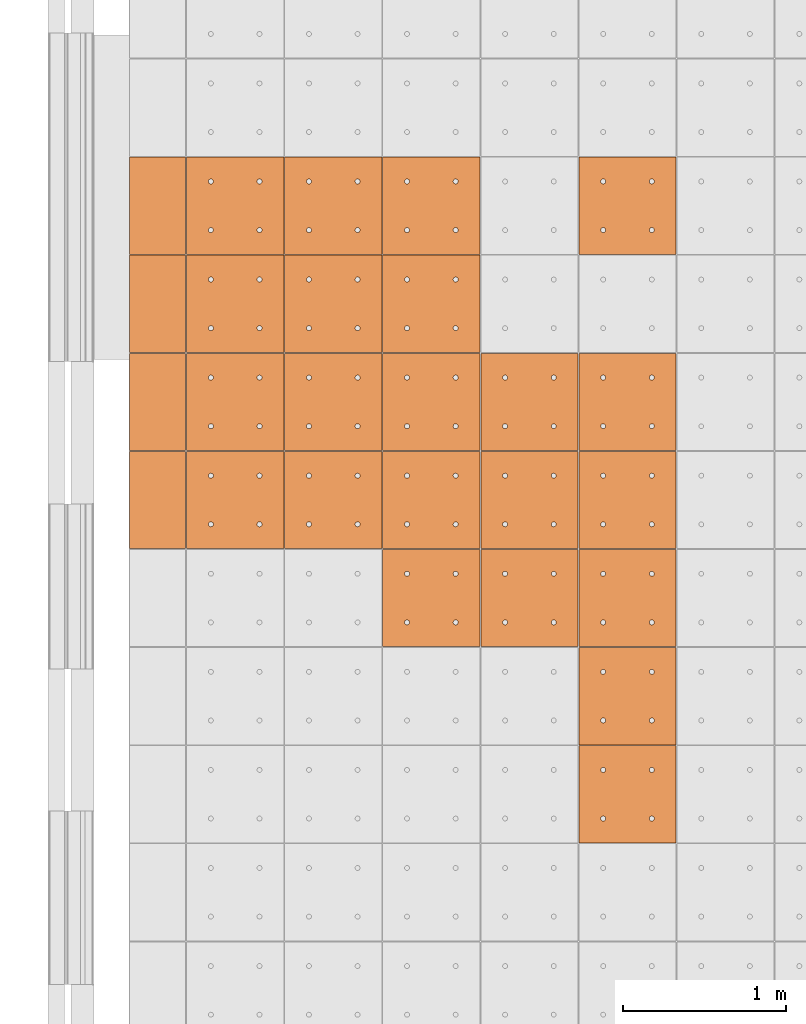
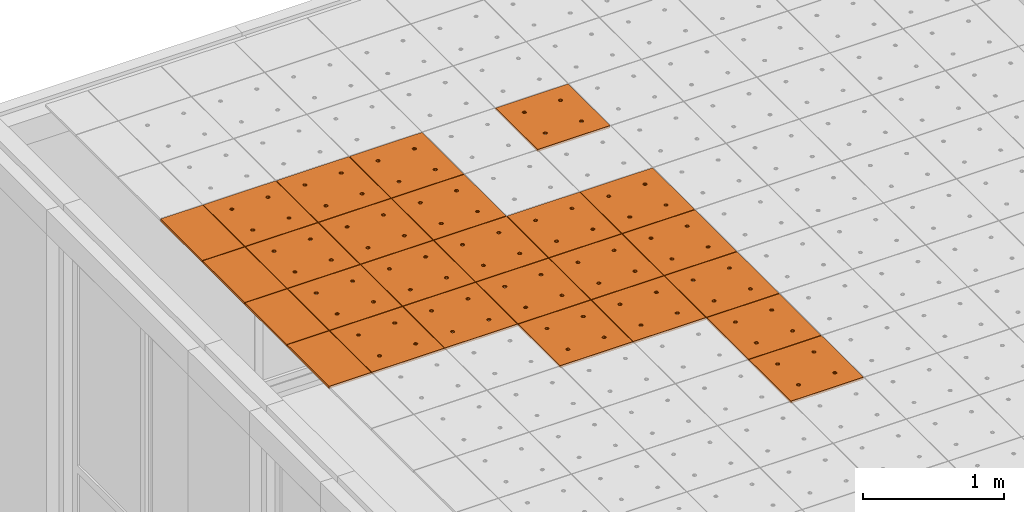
# One storey, part 246 of 338: 26 proxies, 1 element without a shape of its own.
"""IFC2X3 building model written with IfcOpenShell, lengths in millimetres."""

from ifc_helpers import new_model, entity, si_unit, converted_unit, derived_unit, money_unit, direction, frame, origin_with_axes, place, context, subcontext, project, spatial, faceted_brep, source, transform, mapped, material, type_object, type_shapes, element, aggregate, save


model = new_model("IFC2X3")

# Units and contexts
model_context = context("Model", 3, precision=0.01, world=origin_with_axes(), true_north=direction((0.0, 1.0)))
plan_context = context("Plan", 3, precision=0.01, world=origin_with_axes(), true_north=direction((0.0, 1.0)))
body_context = subcontext(model_context, "Body", "Model", "MODEL_VIEW")
ifc_project = project(units=[si_unit("LENGTHUNIT", "METRE", prefix="MILLI"), si_unit("AREAUNIT", "SQUARE_METRE"), si_unit("VOLUMEUNIT", "CUBIC_METRE"), converted_unit("PLANEANGLEUNIT", "DEGREE", entity("IfcPlaneAngleMeasure", 0.0174532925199), si_unit("PLANEANGLEUNIT", "RADIAN"), dimensions=[0, 0, 0, 0, 0, 0, 0]), money_unit("EUR"), converted_unit("TIMEUNIT", "Year", entity("IfcTimeMeasure", 31556926.0), si_unit("TIMEUNIT", "SECOND"), dimensions=[0, 0, 1, 0, 0, 0, 0]), si_unit("MASSUNIT", "GRAM", prefix="KILO"), si_unit("THERMODYNAMICTEMPERATUREUNIT", "DEGREE_CELSIUS"), si_unit("LUMINOUSINTENSITYUNIT", "LUMEN"), si_unit("ENERGYUNIT", "JOULE", prefix="MEGA"), derived_unit("THERMALCONDUCTANCEUNIT", [(si_unit("POWERUNIT", "WATT"), 1), (si_unit("LENGTHUNIT", "METRE"), -1), (si_unit("THERMODYNAMICTEMPERATUREUNIT", "KELVIN"), -1)]), derived_unit("SPECIFICHEATCAPACITYUNIT", [(si_unit("ENERGYUNIT", "JOULE"), 1), (si_unit("MASSUNIT", "GRAM", prefix="KILO"), -1), (si_unit("THERMODYNAMICTEMPERATUREUNIT", "KELVIN"), -1)]), derived_unit("MASSDENSITYUNIT", [(si_unit("MASSUNIT", "GRAM", prefix="KILO"), 1), (si_unit("VOLUMEUNIT", "CUBIC_METRE"), -1)])], contexts=[model_context, plan_context])

# Site, building, storey
site_placement = place(None, origin_with_axes())
site = spatial("IfcSite", under=ifc_project, at=site_placement, Name="Fortuinstraat Woensdrecht", CompositionType="ELEMENT")
building_placement = place(site_placement, origin_with_axes())
building = spatial("IfcBuilding", under=site, at=building_placement, Name="IKC Fortuna", CompositionType="ELEMENT")
storey_placement = place(building_placement, origin_with_axes())
storey = spatial("IfcBuildingStorey", under=building, at=storey_placement, Name="00 begane grond", CompositionType="ELEMENT", Elevation=0.0)

# Covering, proxies
covering_type = type_object("IfcCoveringType", Name="Curtain Wall Type", PredefinedType="CEILING")
covering_placement = place(storey_placement, frame((15059.4416165, 34009.703821, 3210.0), z_axis=(0.0, 0.0, 1.0), x_axis=(1.0, 0.0, 0.0)))
covering = element("IfcCovering", 1, at=covering_placement, inside=storey, type_object=covering_type, Name="45_Plafondafwerking_P01", PredefinedType="CEILING")
ifc_material = material(Name="Gipsplaat")
building_element_proxy_type_1 = type_object("IfcBuildingElementProxyType", Name="Distinct Panel 600 x 600 x 20", PredefinedType="NOTDEFINED")
shared_shape_1 = source(origin_with_axes(), body_context, "Body", "Brep", [
    faceted_brep([(2.49999999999, 2.49999999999, -10.0), (300.0, 2.49999999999, -10.0), (300.0, 2.49999999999, 10.0), (2.49999999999, 2.49999999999, 10.0), (2.49999999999, 300.0, -10.0), (2.49999999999, 597.5, -10.0), (300.0, 597.5, -10.0), (597.5, 597.5, -10.0), (597.5, 300.0, -10.0), (597.5, 2.49999999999, -10.0), (166.25, 450.06232995, -10.0), (165.79423259, 452.64711538, -10.0), (164.896546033, 455.11348892, -10.0), (163.58421608, 457.38651108, -10.0), (161.897117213, 459.39711721, -10.0), (159.886511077, 461.08421608, -10.0), (157.613488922, 462.39654603, -10.0), (155.147115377, 463.29423259, -10.0), (152.562329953, 463.75, -10.0), (149.937670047, 463.75, -10.0), (147.352884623, 463.29423259, -10.0), (144.886511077, 462.39654603, -10.0), (142.613488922, 461.08421608, -10.0), (140.602882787, 459.39711721, -10.0), (138.91578392, 457.38651108, -10.0), (137.603453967, 455.11348892, -10.0), (136.705767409, 452.64711538, -10.0), (136.25, 450.06232995, -10.0), (136.25, 448.75, -10.0), (136.25, 447.43767005, -10.0), (136.705767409, 444.85288462, -10.0), (137.603453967, 442.38651108, -10.0), (138.91578392, 440.11348892, -10.0), (140.602882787, 438.10288279, -10.0), (142.613488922, 436.41578392, -10.0), (144.886511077, 435.10345397, -10.0), (147.352884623, 434.20576741, -10.0), (149.937670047, 433.75, -10.0), (152.562329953, 433.75, -10.0), (155.147115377, 434.20576741, -10.0), (157.613488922, 435.10345397, -10.0), (159.886511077, 436.41578392, -10.0), (161.897117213, 438.10288279, -10.0), (163.58421608, 440.11348892, -10.0), (164.896546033, 442.38651108, -10.0), (165.79423259, 444.85288462, -10.0), (166.25, 447.43767005, -10.0), (463.75, 450.06232995, -10.0), (463.29423259, 452.64711538, -10.0), (462.396546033, 455.11348892, -10.0), (461.08421608, 457.38651108, -10.0), (459.397117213, 459.39711721, -10.0), (457.386511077, 461.08421608, -10.0), (455.113488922, 462.39654603, -10.0), (452.647115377, 463.29423259, -10.0), (450.062329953, 463.75, -10.0), (447.437670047, 463.75, -10.0), (444.852884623, 463.29423259, -10.0), (442.386511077, 462.39654603, -10.0), (440.113488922, 461.08421608, -10.0), (438.102882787, 459.39711721, -10.0), (436.41578392, 457.38651108, -10.0), (435.103453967, 455.11348892, -10.0), (434.205767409, 452.64711538, -10.0), (433.75, 450.06232995, -10.0), (433.75, 448.75, -10.0), (433.75, 447.43767005, -10.0), (434.205767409, 444.85288462, -10.0), (435.103453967, 442.38651108, -10.0), (436.41578392, 440.11348892, -10.0), (438.102882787, 438.10288279, -10.0), (440.113488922, 436.41578392, -10.0), (442.386511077, 435.10345397, -10.0), (444.852884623, 434.20576741, -10.0), (447.437670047, 433.75, -10.0), (450.062329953, 433.75, -10.0), (452.647115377, 434.20576741, -10.0), (455.113488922, 435.10345397, -10.0), (457.386511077, 436.41578392, -10.0), (459.397117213, 438.10288279, -10.0), (461.08421608, 440.11348892, -10.0), (462.396546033, 442.38651108, -10.0), (463.29423259, 444.85288462, -10.0), (463.75, 447.43767005, -10.0), (463.75, 152.56232995, -10.0), (463.29423259, 155.14711538, -10.0), (462.396546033, 157.61348892, -10.0), (461.08421608, 159.88651108, -10.0), (459.397117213, 161.89711721, -10.0), (457.386511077, 163.58421608, -10.0), (455.113488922, 164.89654603, -10.0), (452.647115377, 165.79423259, -10.0), (450.062329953, 166.25, -10.0), (447.437670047, 166.25, -10.0), (444.852884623, 165.79423259, -10.0), (442.386511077, 164.89654603, -10.0), (440.113488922, 163.58421608, -10.0), (438.102882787, 161.89711721, -10.0), (436.41578392, 159.88651108, -10.0), (435.103453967, 157.61348892, -10.0), (434.205767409, 155.14711538, -10.0), (433.75, 152.56232995, -10.0), (433.75, 151.25, -10.0), (433.75, 149.93767005, -10.0), (434.205767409, 147.35288462, -10.0), (435.103453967, 144.88651108, -10.0), (436.41578392, 142.61348892, -10.0), (438.102882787, 140.60288279, -10.0), (440.113488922, 138.91578392, -10.0), (442.386511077, 137.60345397, -10.0), (444.852884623, 136.70576741, -10.0), (447.437670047, 136.25, -10.0), (450.062329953, 136.25, -10.0), (452.647115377, 136.70576741, -10.0), (455.113488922, 137.60345397, -10.0), (457.386511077, 138.91578392, -10.0), (459.397117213, 140.60288279, -10.0), (461.08421608, 142.61348892, -10.0), (462.396546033, 144.88651108, -10.0), (463.29423259, 147.35288462, -10.0), (463.75, 149.93767005, -10.0), (166.25, 152.56232995, -10.0), (165.79423259, 155.14711538, -10.0), (164.896546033, 157.61348892, -10.0), (163.58421608, 159.88651108, -10.0), (161.897117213, 161.89711721, -10.0), (159.886511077, 163.58421608, -10.0), (157.613488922, 164.89654603, -10.0), (155.147115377, 165.79423259, -10.0), (152.562329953, 166.25, -10.0), (149.937670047, 166.25, -10.0), (147.352884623, 165.79423259, -10.0), (144.886511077, 164.89654603, -10.0), (142.613488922, 163.58421608, -10.0), (140.602882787, 161.89711721, -10.0), (138.91578392, 159.88651108, -10.0), (137.603453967, 157.61348892, -10.0), (136.705767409, 155.14711538, -10.0), (136.25, 152.56232995, -10.0), (136.25, 151.25, -10.0), (136.25, 149.93767005, -10.0), (136.705767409, 147.35288462, -10.0), (137.603453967, 144.88651108, -10.0), (138.91578392, 142.61348892, -10.0), (140.602882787, 140.60288279, -10.0), (142.613488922, 138.91578392, -10.0), (144.886511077, 137.60345397, -10.0), (147.352884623, 136.70576741, -10.0), (149.937670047, 136.25, -10.0), (152.562329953, 136.25, -10.0), (155.147115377, 136.70576741, -10.0), (157.613488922, 137.60345397, -10.0), (159.886511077, 138.91578392, -10.0), (161.897117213, 140.60288279, -10.0), (163.58421608, 142.61348892, -10.0), (164.896546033, 144.88651108, -10.0), (165.79423259, 147.35288462, -10.0), (166.25, 149.93767005, -10.0), (597.5, 2.49999999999, 10.0), (597.5, 300.0, 10.0), (597.5, 597.5, 10.0), (300.0, 597.5, 10.0), (2.49999999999, 597.5, 10.0), (2.49999999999, 300.0, 10.0), (166.25, 450.06232995, 10.0), (166.25, 447.43767005, 10.0), (165.79423259, 444.85288462, 10.0), (164.896546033, 442.38651108, 10.0), (163.58421608, 440.11348892, 10.0), (161.897117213, 438.10288279, 10.0), (159.886511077, 436.41578392, 10.0), (157.613488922, 435.10345397, 10.0), (155.147115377, 434.20576741, 10.0), (152.562329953, 433.75, 10.0), (149.937670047, 433.75, 10.0), (147.352884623, 434.20576741, 10.0), (144.886511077, 435.10345397, 10.0), (142.613488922, 436.41578392, 10.0), (140.602882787, 438.10288279, 10.0), (138.91578392, 440.11348892, 10.0), (137.603453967, 442.38651108, 10.0), (136.705767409, 444.85288462, 10.0), (136.25, 447.43767005, 10.0), (136.25, 448.75, 10.0), (136.25, 450.06232995, 10.0), (136.705767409, 452.64711538, 10.0), (137.603453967, 455.11348892, 10.0), (138.91578392, 457.38651108, 10.0), (140.602882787, 459.39711721, 10.0), (142.613488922, 461.08421608, 10.0), (144.886511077, 462.39654603, 10.0), (147.352884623, 463.29423259, 10.0), (149.937670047, 463.75, 10.0), (152.562329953, 463.75, 10.0), (155.147115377, 463.29423259, 10.0), (157.613488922, 462.39654603, 10.0), (159.886511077, 461.08421608, 10.0), (161.897117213, 459.39711721, 10.0), (163.58421608, 457.38651108, 10.0), (164.896546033, 455.11348892, 10.0), (165.79423259, 452.64711538, 10.0), (463.75, 450.06232995, 10.0), (463.75, 447.43767005, 10.0), (463.29423259, 444.85288462, 10.0), (462.396546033, 442.38651108, 10.0), (461.08421608, 440.11348892, 10.0), (459.397117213, 438.10288279, 10.0), (457.386511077, 436.41578392, 10.0), (455.113488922, 435.10345397, 10.0), (452.647115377, 434.20576741, 10.0), (450.062329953, 433.75, 10.0), (447.437670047, 433.75, 10.0), (444.852884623, 434.20576741, 10.0), (442.386511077, 435.10345397, 10.0), (440.113488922, 436.41578392, 10.0), (438.102882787, 438.10288279, 10.0), (436.41578392, 440.11348892, 10.0), (435.103453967, 442.38651108, 10.0), (434.205767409, 444.85288462, 10.0), (433.75, 447.43767005, 10.0), (433.75, 448.75, 10.0), (433.75, 450.06232995, 10.0), (434.205767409, 452.64711538, 10.0), (435.103453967, 455.11348892, 10.0), (436.41578392, 457.38651108, 10.0), (438.102882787, 459.39711721, 10.0), (440.113488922, 461.08421608, 10.0), (442.386511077, 462.39654603, 10.0), (444.852884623, 463.29423259, 10.0), (447.437670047, 463.75, 10.0), (450.062329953, 463.75, 10.0), (452.647115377, 463.29423259, 10.0), (455.113488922, 462.39654603, 10.0), (457.386511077, 461.08421608, 10.0), (459.397117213, 459.39711721, 10.0), (461.08421608, 457.38651108, 10.0), (462.396546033, 455.11348892, 10.0), (463.29423259, 452.64711538, 10.0), (463.75, 152.56232995, 10.0), (463.75, 149.93767005, 10.0), (463.29423259, 147.35288462, 10.0), (462.396546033, 144.88651108, 10.0), (461.08421608, 142.61348892, 10.0), (459.397117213, 140.60288279, 10.0), (457.386511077, 138.91578392, 10.0), (455.113488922, 137.60345397, 10.0), (452.647115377, 136.70576741, 10.0), (450.062329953, 136.25, 10.0), (447.437670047, 136.25, 10.0), (444.852884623, 136.70576741, 10.0), (442.386511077, 137.60345397, 10.0), (440.113488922, 138.91578392, 10.0), (438.102882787, 140.60288279, 10.0), (436.41578392, 142.61348892, 10.0), (435.103453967, 144.88651108, 10.0), (434.205767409, 147.35288462, 10.0), (433.75, 149.93767005, 10.0), (433.75, 151.25, 10.0), (433.75, 152.56232995, 10.0), (434.205767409, 155.14711538, 10.0), (435.103453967, 157.61348892, 10.0), (436.41578392, 159.88651108, 10.0), (438.102882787, 161.89711721, 10.0), (440.113488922, 163.58421608, 10.0), (442.386511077, 164.89654603, 10.0), (444.852884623, 165.79423259, 10.0), (447.437670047, 166.25, 10.0), (450.062329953, 166.25, 10.0), (452.647115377, 165.79423259, 10.0), (455.113488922, 164.89654603, 10.0), (457.386511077, 163.58421608, 10.0), (459.397117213, 161.89711721, 10.0), (461.08421608, 159.88651108, 10.0), (462.396546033, 157.61348892, 10.0), (463.29423259, 155.14711538, 10.0), (166.25, 152.56232995, 10.0), (166.25, 149.93767005, 10.0), (165.79423259, 147.35288462, 10.0), (164.896546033, 144.88651108, 10.0), (163.58421608, 142.61348892, 10.0), (161.897117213, 140.60288279, 10.0), (159.886511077, 138.91578392, 10.0), (157.613488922, 137.60345397, 10.0), (155.147115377, 136.70576741, 10.0), (152.562329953, 136.25, 10.0), (149.937670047, 136.25, 10.0), (147.352884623, 136.70576741, 10.0), (144.886511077, 137.60345397, 10.0), (142.613488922, 138.91578392, 10.0), (140.602882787, 140.60288279, 10.0), (138.91578392, 142.61348892, 10.0), (137.603453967, 144.88651108, 10.0), (136.705767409, 147.35288462, 10.0), (136.25, 149.93767005, 10.0), (136.25, 151.25, 10.0), (136.25, 152.56232995, 10.0), (136.705767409, 155.14711538, 10.0), (137.603453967, 157.61348892, 10.0), (138.91578392, 159.88651108, 10.0), (140.602882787, 161.89711721, 10.0), (142.613488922, 163.58421608, 10.0), (144.886511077, 164.89654603, 10.0), (147.352884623, 165.79423259, 10.0), (149.937670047, 166.25, 10.0), (152.562329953, 166.25, 10.0), (155.147115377, 165.79423259, 10.0), (157.613488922, 164.89654603, 10.0), (159.886511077, 163.58421608, 10.0), (161.897117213, 161.89711721, 10.0), (163.58421608, 159.88651108, 10.0), (164.896546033, 157.61348892, 10.0), (165.79423259, 155.14711538, 10.0)], [[[0, 1, 2, 3]], [[0, 4, 5, 6, 7, 8, 9, 1], [10, 11, 12, 13, 14, 15, 16, 17, 18, 19, 20, 21, 22, 23, 24, 25, 26, 27, 28, 29, 30, 31, 32, 33, 34, 35, 36, 37, 38, 39, 40, 41, 42, 43, 44, 45, 46], [47, 48, 49, 50, 51, 52, 53, 54, 55, 56, 57, 58, 59, 60, 61, 62, 63, 64, 65, 66, 67, 68, 69, 70, 71, 72, 73, 74, 75, 76, 77, 78, 79, 80, 81, 82, 83], [84, 85, 86, 87, 88, 89, 90, 91, 92, 93, 94, 95, 96, 97, 98, 99, 100, 101, 102, 103, 104, 105, 106, 107, 108, 109, 110, 111, 112, 113, 114, 115, 116, 117, 118, 119, 120], [121, 122, 123, 124, 125, 126, 127, 128, 129, 130, 131, 132, 133, 134, 135, 136, 137, 138, 139, 140, 141, 142, 143, 144, 145, 146, 147, 148, 149, 150, 151, 152, 153, 154, 155, 156, 157]], [[1, 9, 158, 2]], [[3, 2, 158, 159, 160, 161, 162, 163], [164, 165, 166, 167, 168, 169, 170, 171, 172, 173, 174, 175, 176, 177, 178, 179, 180, 181, 182, 183, 184, 185, 186, 187, 188, 189, 190, 191, 192, 193, 194, 195, 196, 197, 198, 199, 200], [201, 202, 203, 204, 205, 206, 207, 208, 209, 210, 211, 212, 213, 214, 215, 216, 217, 218, 219, 220, 221, 222, 223, 224, 225, 226, 227, 228, 229, 230, 231, 232, 233, 234, 235, 236, 237], [238, 239, 240, 241, 242, 243, 244, 245, 246, 247, 248, 249, 250, 251, 252, 253, 254, 255, 256, 257, 258, 259, 260, 261, 262, 263, 264, 265, 266, 267, 268, 269, 270, 271, 272, 273, 274], [275, 276, 277, 278, 279, 280, 281, 282, 283, 284, 285, 286, 287, 288, 289, 290, 291, 292, 293, 294, 295, 296, 297, 298, 299, 300, 301, 302, 303, 304, 305, 306, 307, 308, 309, 310, 311]], [[4, 0, 3, 163]], [[5, 4, 163, 162]], [[6, 5, 162, 161]], [[7, 6, 161, 160]], [[8, 7, 160, 159]], [[9, 8, 159, 158]], [[11, 10, 164, 200]], [[12, 11, 200, 199]], [[13, 12, 199, 198]], [[14, 13, 198, 197]], [[15, 14, 197, 196]], [[16, 15, 196, 195]], [[17, 16, 195, 194]], [[18, 17, 194, 193]], [[19, 18, 193, 192]], [[20, 19, 192, 191]], [[21, 20, 191, 190]], [[22, 21, 190, 189]], [[23, 22, 189, 188]], [[24, 23, 188, 187]], [[25, 24, 187, 186]], [[26, 25, 186, 185]], [[27, 26, 185, 184]], [[28, 27, 184, 183]], [[29, 28, 183, 182]], [[30, 29, 182, 181]], [[31, 30, 181, 180]], [[32, 31, 180, 179]], [[33, 32, 179, 178]], [[34, 33, 178, 177]], [[35, 34, 177, 176]], [[36, 35, 176, 175]], [[37, 36, 175, 174]], [[38, 37, 174, 173]], [[39, 38, 173, 172]], [[40, 39, 172, 171]], [[41, 40, 171, 170]], [[42, 41, 170, 169]], [[43, 42, 169, 168]], [[44, 43, 168, 167]], [[45, 44, 167, 166]], [[46, 45, 166, 165]], [[10, 46, 165, 164]], [[48, 47, 201, 237]], [[49, 48, 237, 236]], [[50, 49, 236, 235]], [[51, 50, 235, 234]], [[52, 51, 234, 233]], [[53, 52, 233, 232]], [[54, 53, 232, 231]], [[55, 54, 231, 230]], [[56, 55, 230, 229]], [[57, 56, 229, 228]], [[58, 57, 228, 227]], [[59, 58, 227, 226]], [[60, 59, 226, 225]], [[61, 60, 225, 224]], [[62, 61, 224, 223]], [[63, 62, 223, 222]], [[64, 63, 222, 221]], [[65, 64, 221, 220]], [[66, 65, 220, 219]], [[67, 66, 219, 218]], [[68, 67, 218, 217]], [[69, 68, 217, 216]], [[70, 69, 216, 215]], [[71, 70, 215, 214]], [[72, 71, 214, 213]], [[73, 72, 213, 212]], [[74, 73, 212, 211]], [[75, 74, 211, 210]], [[76, 75, 210, 209]], [[77, 76, 209, 208]], [[78, 77, 208, 207]], [[79, 78, 207, 206]], [[80, 79, 206, 205]], [[81, 80, 205, 204]], [[82, 81, 204, 203]], [[83, 82, 203, 202]], [[47, 83, 202, 201]], [[85, 84, 238, 274]], [[86, 85, 274, 273]], [[87, 86, 273, 272]], [[88, 87, 272, 271]], [[89, 88, 271, 270]], [[90, 89, 270, 269]], [[91, 90, 269, 268]], [[92, 91, 268, 267]], [[93, 92, 267, 266]], [[94, 93, 266, 265]], [[95, 94, 265, 264]], [[96, 95, 264, 263]], [[97, 96, 263, 262]], [[98, 97, 262, 261]], [[99, 98, 261, 260]], [[100, 99, 260, 259]], [[101, 100, 259, 258]], [[102, 101, 258, 257]], [[103, 102, 257, 256]], [[104, 103, 256, 255]], [[105, 104, 255, 254]], [[106, 105, 254, 253]], [[107, 106, 253, 252]], [[108, 107, 252, 251]], [[109, 108, 251, 250]], [[110, 109, 250, 249]], [[111, 110, 249, 248]], [[112, 111, 248, 247]], [[113, 112, 247, 246]], [[114, 113, 246, 245]], [[115, 114, 245, 244]], [[116, 115, 244, 243]], [[117, 116, 243, 242]], [[118, 117, 242, 241]], [[119, 118, 241, 240]], [[120, 119, 240, 239]], [[84, 120, 239, 238]], [[122, 121, 275, 311]], [[123, 122, 311, 310]], [[124, 123, 310, 309]], [[125, 124, 309, 308]], [[126, 125, 308, 307]], [[127, 126, 307, 306]], [[128, 127, 306, 305]], [[129, 128, 305, 304]], [[130, 129, 304, 303]], [[131, 130, 303, 302]], [[132, 131, 302, 301]], [[133, 132, 301, 300]], [[134, 133, 300, 299]], [[135, 134, 299, 298]], [[136, 135, 298, 297]], [[137, 136, 297, 296]], [[138, 137, 296, 295]], [[139, 138, 295, 294]], [[140, 139, 294, 293]], [[141, 140, 293, 292]], [[142, 141, 292, 291]], [[143, 142, 291, 290]], [[144, 143, 290, 289]], [[145, 144, 289, 288]], [[146, 145, 288, 287]], [[147, 146, 287, 286]], [[148, 147, 286, 285]], [[149, 148, 285, 284]], [[150, 149, 284, 283]], [[151, 150, 283, 282]], [[152, 151, 282, 281]], [[153, 152, 281, 280]], [[154, 153, 280, 279]], [[155, 154, 279, 278]], [[156, 155, 278, 277]], [[157, 156, 277, 276]], [[121, 157, 276, 275]]]),
])
type_shapes(building_element_proxy_type_1, [shared_shape_1])
proxy_1_placement = place(covering_placement, frame((-600.0, -600.0, 1.95843341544e-10), z_axis=(0.0, 0.0, 1.0), x_axis=(1.0, 0.0, 0.0)))
proxy_1 = element("IfcBuildingElementProxy", 2, at=proxy_1_placement, type_object=building_element_proxy_type_1, material=ifc_material, Name="__Panel-D", context=body_context, shape_type="MappedRepresentation", body=[
    mapped(shared_shape_1, transform((300.0, 300.0, 0.0), x_axis=(-1.0, 0.0, 0.0), y_axis=(0.0, -1.0, 0.0), z_axis=(0.0, 0.0, 1.0))),
])
proxy_2_placement = place(covering_placement, frame((0.0, -600.0, 1.7630341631e-10), z_axis=(0.0, 0.0, 1.0), x_axis=(1.0, 0.0, 0.0)))
proxy_2 = element("IfcBuildingElementProxy", 3, at=proxy_2_placement, type_object=building_element_proxy_type_1, material=ifc_material, Name="__Panel-D", context=body_context, shape_type="MappedRepresentation", body=[
    mapped(shared_shape_1, transform((300.0, 300.0, 0.0), x_axis=(-1.0, 0.0, 0.0), y_axis=(0.0, -1.0, 0.0), z_axis=(0.0, 0.0, 1.0))),
])
proxy_3_placement = place(covering_placement, frame((0.0, -1200.0, 1.7630341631e-10), z_axis=(0.0, 0.0, 1.0), x_axis=(1.0, 0.0, 0.0)))
proxy_3 = element("IfcBuildingElementProxy", 4, at=proxy_3_placement, type_object=building_element_proxy_type_1, material=ifc_material, Name="__Panel-D", context=body_context, shape_type="MappedRepresentation", body=[
    mapped(shared_shape_1, transform((300.0, 300.0, 0.0), x_axis=(-1.0, 0.0, 0.0), y_axis=(0.0, -1.0, 0.0), z_axis=(0.0, 0.0, 1.0))),
])
proxy_4_placement = place(covering_placement, frame((0.0, -1800.0, 1.7630341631e-10), z_axis=(0.0, 0.0, 1.0), x_axis=(1.0, 0.0, 0.0)))
proxy_4 = element("IfcBuildingElementProxy", 5, at=proxy_4_placement, type_object=building_element_proxy_type_1, material=ifc_material, Name="__Panel-D", context=body_context, shape_type="MappedRepresentation", body=[
    mapped(shared_shape_1, transform((300.0, 300.0, 0.0), x_axis=(-1.0, 0.0, 0.0), y_axis=(0.0, -1.0, 0.0), z_axis=(0.0, 0.0, 1.0))),
])
proxy_5_placement = place(covering_placement, frame((0.0, -2400.0, 1.7630341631e-10), z_axis=(0.0, 0.0, 1.0), x_axis=(1.0, 0.0, 0.0)))
proxy_5 = element("IfcBuildingElementProxy", 6, at=proxy_5_placement, type_object=building_element_proxy_type_1, material=ifc_material, Name="__Panel-D", context=body_context, shape_type="MappedRepresentation", body=[
    mapped(shared_shape_1, transform((300.0, 300.0, 0.0), x_axis=(-1.0, 0.0, 0.0), y_axis=(0.0, -1.0, 0.0), z_axis=(0.0, 0.0, 1.0))),
])
proxy_6_placement = place(covering_placement, frame((-600.0, -1200.0, 1.95843341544e-10), z_axis=(0.0, 0.0, 1.0), x_axis=(1.0, 0.0, 0.0)))
proxy_6 = element("IfcBuildingElementProxy", 7, at=proxy_6_placement, type_object=building_element_proxy_type_1, material=ifc_material, Name="__Panel-D", context=body_context, shape_type="MappedRepresentation", body=[
    mapped(shared_shape_1, transform((300.0, 300.0, 0.0), x_axis=(-1.0, 0.0, 0.0), y_axis=(0.0, -1.0, 0.0), z_axis=(0.0, 0.0, 1.0))),
])
proxy_7_placement = place(covering_placement, frame((-600.0, -1800.0, 1.95843341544e-10), z_axis=(0.0, 0.0, 1.0), x_axis=(1.0, 0.0, 0.0)))
proxy_7 = element("IfcBuildingElementProxy", 8, at=proxy_7_placement, type_object=building_element_proxy_type_1, material=ifc_material, Name="__Panel-D", context=body_context, shape_type="MappedRepresentation", body=[
    mapped(shared_shape_1, transform((300.0, 300.0, 0.0), x_axis=(-1.0, 0.0, 0.0), y_axis=(0.0, -1.0, 0.0), z_axis=(0.0, 0.0, 1.0))),
])
proxy_8_placement = place(covering_placement, frame((-600.0, -2400.0, 1.95843341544e-10), z_axis=(0.0, 0.0, 1.0), x_axis=(1.0, 0.0, 0.0)))
proxy_8 = element("IfcBuildingElementProxy", 9, at=proxy_8_placement, type_object=building_element_proxy_type_1, material=ifc_material, Name="__Panel-D", context=body_context, shape_type="MappedRepresentation", body=[
    mapped(shared_shape_1, transform((300.0, 300.0, 0.0), x_axis=(-1.0, 0.0, 0.0), y_axis=(0.0, -1.0, 0.0), z_axis=(0.0, 0.0, 1.0))),
])
proxy_9_placement = place(covering_placement, frame((600.0, -600.0, 1.56763491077e-10), z_axis=(0.0, 0.0, 1.0), x_axis=(1.0, 0.0, 0.0)))
proxy_9 = element("IfcBuildingElementProxy", 10, at=proxy_9_placement, type_object=building_element_proxy_type_1, material=ifc_material, Name="__Panel-D", context=body_context, shape_type="MappedRepresentation", body=[
    mapped(shared_shape_1, transform((300.0, 300.0, 0.0), x_axis=(-1.0, 0.0, 0.0), y_axis=(0.0, -1.0, 0.0), z_axis=(0.0, 0.0, 1.0))),
])
proxy_10_placement = place(covering_placement, frame((600.0, -1200.0, 1.56763491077e-10), z_axis=(0.0, 0.0, 1.0), x_axis=(1.0, 0.0, 0.0)))
proxy_10 = element("IfcBuildingElementProxy", 11, at=proxy_10_placement, type_object=building_element_proxy_type_1, material=ifc_material, Name="__Panel-D", context=body_context, shape_type="MappedRepresentation", body=[
    mapped(shared_shape_1, transform((300.0, 300.0, 0.0), x_axis=(-1.0, 0.0, 0.0), y_axis=(0.0, -1.0, 0.0), z_axis=(0.0, 0.0, 1.0))),
])
proxy_11_placement = place(covering_placement, frame((600.0, -1800.0, 1.56763491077e-10), z_axis=(0.0, 0.0, 1.0), x_axis=(1.0, 0.0, 0.0)))
proxy_11 = element("IfcBuildingElementProxy", 12, at=proxy_11_placement, type_object=building_element_proxy_type_1, material=ifc_material, Name="__Panel-D", context=body_context, shape_type="MappedRepresentation", body=[
    mapped(shared_shape_1, transform((300.0, 300.0, 0.0), x_axis=(-1.0, 0.0, 0.0), y_axis=(0.0, -1.0, 0.0), z_axis=(0.0, 0.0, 1.0))),
])
proxy_12_placement = place(covering_placement, frame((600.0, -2400.0, 1.56763491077e-10), z_axis=(0.0, 0.0, 1.0), x_axis=(1.0, 0.0, 0.0)))
proxy_12 = element("IfcBuildingElementProxy", 13, at=proxy_12_placement, type_object=building_element_proxy_type_1, material=ifc_material, Name="__Panel-D", context=body_context, shape_type="MappedRepresentation", body=[
    mapped(shared_shape_1, transform((300.0, 300.0, 0.0), x_axis=(-1.0, 0.0, 0.0), y_axis=(0.0, -1.0, 0.0), z_axis=(0.0, 0.0, 1.0))),
])
proxy_13_placement = place(covering_placement, frame((1200.0, -2400.0, 1.37223565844e-10), z_axis=(0.0, 0.0, 1.0), x_axis=(1.0, 0.0, 0.0)))
proxy_13 = element("IfcBuildingElementProxy", 14, at=proxy_13_placement, type_object=building_element_proxy_type_1, material=ifc_material, Name="__Panel-D", context=body_context, shape_type="MappedRepresentation", body=[
    mapped(shared_shape_1, transform((300.0, 300.0, 0.0), x_axis=(-1.0, 0.0, 0.0), y_axis=(0.0, -1.0, 0.0), z_axis=(0.0, 0.0, 1.0))),
])
proxy_14_placement = place(covering_placement, frame((1800.0, -600.0, 1.172395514e-10), z_axis=(0.0, 0.0, 1.0), x_axis=(1.0, 0.0, 0.0)))
proxy_14 = element("IfcBuildingElementProxy", 15, at=proxy_14_placement, type_object=building_element_proxy_type_1, material=ifc_material, Name="__Panel-D", context=body_context, shape_type="MappedRepresentation", body=[
    mapped(shared_shape_1, transform((300.0, 300.0, 0.0), x_axis=(-1.0, 0.0, 0.0), y_axis=(0.0, -1.0, 0.0), z_axis=(0.0, 0.0, 1.0))),
])
proxy_15_placement = place(covering_placement, frame((1800.0, -1800.0, 1.172395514e-10), z_axis=(0.0, 0.0, 1.0), x_axis=(1.0, 0.0, 0.0)))
proxy_15 = element("IfcBuildingElementProxy", 16, at=proxy_15_placement, type_object=building_element_proxy_type_1, material=ifc_material, Name="__Panel-D", context=body_context, shape_type="MappedRepresentation", body=[
    mapped(shared_shape_1, transform((300.0, 300.0, 0.0), x_axis=(-1.0, 0.0, 0.0), y_axis=(0.0, -1.0, 0.0), z_axis=(0.0, 0.0, 1.0))),
])
proxy_16_placement = place(covering_placement, frame((1800.0, -2400.0, 1.172395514e-10), z_axis=(0.0, 0.0, 1.0), x_axis=(1.0, 0.0, 0.0)))
proxy_16 = element("IfcBuildingElementProxy", 17, at=proxy_16_placement, type_object=building_element_proxy_type_1, material=ifc_material, Name="__Panel-D", context=body_context, shape_type="MappedRepresentation", body=[
    mapped(shared_shape_1, transform((300.0, 300.0, 0.0), x_axis=(-1.0, 0.0, 0.0), y_axis=(0.0, -1.0, 0.0), z_axis=(0.0, 0.0, 1.0))),
])
proxy_17_placement = place(covering_placement, frame((1200.0, -1800.0, 1.37223565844e-10), z_axis=(0.0, 0.0, 1.0), x_axis=(1.0, 0.0, 0.0)))
proxy_17 = element("IfcBuildingElementProxy", 18, at=proxy_17_placement, type_object=building_element_proxy_type_1, material=ifc_material, Name="__Panel-D", context=body_context, shape_type="MappedRepresentation", body=[
    mapped(shared_shape_1, transform((300.0, 300.0, 0.0), x_axis=(-1.0, 0.0, 0.0), y_axis=(0.0, -1.0, 0.0), z_axis=(0.0, 0.0, 1.0))),
])
proxy_18_placement = place(covering_placement, frame((1800.0, -4200.0, 1.172395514e-10), z_axis=(0.0, 0.0, 1.0), x_axis=(1.0, 0.0, 0.0)))
proxy_18 = element("IfcBuildingElementProxy", 19, at=proxy_18_placement, type_object=building_element_proxy_type_1, material=ifc_material, Name="__Panel-D", context=body_context, shape_type="MappedRepresentation", body=[
    mapped(shared_shape_1, transform((300.0, 300.0, 0.0), x_axis=(-1.0, 0.0, 0.0), y_axis=(0.0, -1.0, 0.0), z_axis=(0.0, 0.0, 1.0))),
])
proxy_19_placement = place(covering_placement, frame((1800.0, -3600.0, 1.172395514e-10), z_axis=(0.0, 0.0, 1.0), x_axis=(1.0, 0.0, 0.0)))
proxy_19 = element("IfcBuildingElementProxy", 20, at=proxy_19_placement, type_object=building_element_proxy_type_1, material=ifc_material, Name="__Panel-D", context=body_context, shape_type="MappedRepresentation", body=[
    mapped(shared_shape_1, transform((300.0, 300.0, 0.0), x_axis=(-1.0, 0.0, 0.0), y_axis=(0.0, -1.0, 0.0), z_axis=(0.0, 0.0, 1.0))),
])
proxy_20_placement = place(covering_placement, frame((1800.0, -3000.0, 1.172395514e-10), z_axis=(0.0, 0.0, 1.0), x_axis=(1.0, 0.0, 0.0)))
proxy_20 = element("IfcBuildingElementProxy", 21, at=proxy_20_placement, type_object=building_element_proxy_type_1, material=ifc_material, Name="__Panel-D", context=body_context, shape_type="MappedRepresentation", body=[
    mapped(shared_shape_1, transform((300.0, 300.0, 0.0), x_axis=(-1.0, 0.0, 0.0), y_axis=(0.0, -1.0, 0.0), z_axis=(0.0, 0.0, 1.0))),
])
proxy_21_placement = place(covering_placement, frame((1200.0, -3000.0, 1.37223565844e-10), z_axis=(0.0, 0.0, 1.0), x_axis=(1.0, 0.0, 0.0)))
proxy_21 = element("IfcBuildingElementProxy", 22, at=proxy_21_placement, type_object=building_element_proxy_type_1, material=ifc_material, Name="__Panel-D", context=body_context, shape_type="MappedRepresentation", body=[
    mapped(shared_shape_1, transform((300.0, 300.0, 0.0), x_axis=(-1.0, 0.0, 0.0), y_axis=(0.0, -1.0, 0.0), z_axis=(0.0, 0.0, 1.0))),
])
proxy_22_placement = place(covering_placement, frame((600.0, -3000.0, 1.56763491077e-10), z_axis=(0.0, 0.0, 1.0), x_axis=(1.0, 0.0, 0.0)))
proxy_22 = element("IfcBuildingElementProxy", 23, at=proxy_22_placement, type_object=building_element_proxy_type_1, material=ifc_material, Name="__Panel-D", context=body_context, shape_type="MappedRepresentation", body=[
    mapped(shared_shape_1, transform((300.0, 300.0, 0.0), x_axis=(-1.0, 0.0, 0.0), y_axis=(0.0, -1.0, 0.0), z_axis=(0.0, 0.0, 1.0))),
])
building_element_proxy_type_2 = type_object("IfcBuildingElementProxyType", Name="Main Panel 350 x 600 x 20", PredefinedType="NOTDEFINED")
shared_shape_2 = source(origin_with_axes(), body_context, "Body", "Brep", [
    faceted_brep([(2.49999837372, 2.5, -10.0), (347.50666814, 2.49999999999, -10.0), (347.50666814, 2.49999999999, 10.0), (2.49999837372, 2.5, 10.0), (2.49999837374, 597.5, -10.0), (347.506659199, 597.5, -10.0), (347.506659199, 597.5, 10.0), (2.49999837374, 597.5, 10.0)], [[[0, 1, 2, 3]], [[0, 4, 5, 1]], [[1, 5, 6, 2]], [[3, 2, 6, 7]], [[4, 0, 3, 7]], [[5, 4, 7, 6]]]),
])
proxy_23_placement = place(covering_placement, frame((-1075.00326896, -1200.0, 2.11386463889e-10), z_axis=(0.0, 0.0, 1.0), x_axis=(1.0, 0.0, 0.0)))
proxy_23 = element("IfcBuildingElementProxy", 24, at=proxy_23_placement, type_object=building_element_proxy_type_2, material=ifc_material, Name="__Panel-D", context=body_context, shape_type="MappedRepresentation", body=[
    mapped(shared_shape_2, transform((175.003268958, 300.0, 0.0), x_axis=(-1.0, 0.0, 0.0), y_axis=(0.0, -1.0, 0.0), z_axis=(0.0, 0.0, 1.0))),
])
shared_shape_3 = source(origin_with_axes(), body_context, "Body", "Brep", [
    faceted_brep([(2.49999837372, 2.5, -10.0), (347.50666814, 2.49999999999, -10.0), (347.50666814, 2.49999999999, 10.0), (2.49999837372, 2.5, 10.0), (2.49999837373, 597.5, -10.0), (347.50666814, 597.5, -10.0), (347.50666814, 597.5, 10.0), (2.49999837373, 597.5, 10.0)], [[[0, 1, 2, 3]], [[0, 4, 5, 1]], [[1, 5, 6, 2]], [[3, 2, 6, 7]], [[4, 0, 3, 7]], [[5, 4, 7, 6]]]),
])
type_shapes(building_element_proxy_type_2, [shared_shape_2, shared_shape_3])
proxy_24_placement = place(covering_placement, frame((-1075.00326896, -2400.0, 2.11386463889e-10), z_axis=(0.0, 0.0, 1.0), x_axis=(1.0, 0.0, 0.0)))
proxy_24 = element("IfcBuildingElementProxy", 25, at=proxy_24_placement, type_object=building_element_proxy_type_2, material=ifc_material, Name="__Panel-D", context=body_context, shape_type="MappedRepresentation", body=[
    mapped(shared_shape_3, transform((175.003268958, 300.0, 0.0), x_axis=(-1.0, 0.0, 0.0), y_axis=(0.0, -1.0, 0.0), z_axis=(0.0, 0.0, 1.0))),
])
proxy_25_placement = place(covering_placement, frame((-1075.00330151, -600.0, 2.11386463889e-10), z_axis=(0.0, 0.0, 1.0), x_axis=(1.0, 0.0, 0.0)))
proxy_25 = element("IfcBuildingElementProxy", 26, at=proxy_25_placement, type_object=building_element_proxy_type_2, material=ifc_material, Name="__Panel-D", context=body_context, shape_type="MappedRepresentation", body=[
    mapped(shared_shape_3, transform((175.003301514, 300.0, 0.0), x_axis=(-1.0, 0.0, 0.0), y_axis=(0.0, -1.0, 0.0), z_axis=(0.0, 0.0, 1.0))),
])
proxy_26_placement = place(covering_placement, frame((-1075.00326896, -1800.0, 2.11386463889e-10), z_axis=(0.0, 0.0, 1.0), x_axis=(1.0, 0.0, 0.0)))
proxy_26 = element("IfcBuildingElementProxy", 27, at=proxy_26_placement, type_object=building_element_proxy_type_2, material=ifc_material, Name="__Panel-D", context=body_context, shape_type="MappedRepresentation", body=[
    mapped(shared_shape_3, transform((175.003268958, 300.0, 0.0), x_axis=(-1.0, 0.0, 0.0), y_axis=(0.0, -1.0, 0.0), z_axis=(0.0, 0.0, 1.0))),
])
aggregate(covering, [proxy_1, proxy_2, proxy_24, proxy_3, proxy_4, proxy_5, proxy_6, proxy_7, proxy_8, proxy_25, proxy_9, proxy_10, proxy_11, proxy_12, proxy_13, proxy_14, proxy_15, proxy_16, proxy_17, proxy_18, proxy_19, proxy_23, proxy_20, proxy_21, proxy_22, proxy_26])

save(model, "model.ifc")
